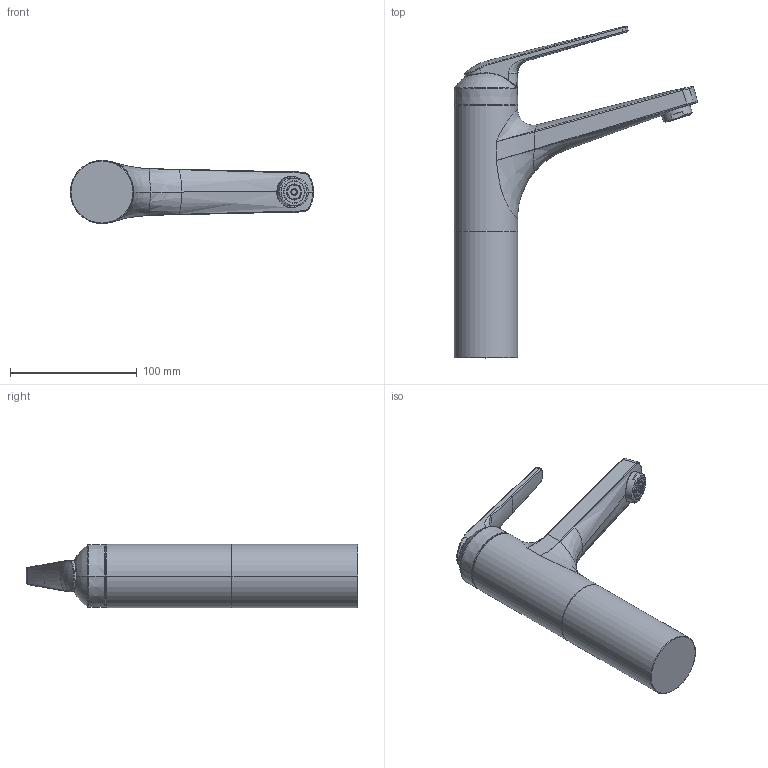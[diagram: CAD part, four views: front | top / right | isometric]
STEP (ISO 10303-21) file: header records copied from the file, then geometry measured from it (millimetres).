
FILE_DESCRIPTION((''),'2;1');
FILE_NAME('12_061_372_XXX','2012-06-26T',('azb9'),(''),'PRO/ENGINEER BY PARAMETRIC TECHNOLOGY CORPORATION, 2011080','PRO/ENGINEER BY PARAMETRIC TECHNOLOGY CORPORATION, 2011080','');
FILE_SCHEMA(('AUTOMOTIVE_DESIGN_CC2 { 1 2 10303 214 -1 1 5 2 }'));
Length unit declared in the file: millimetre
Products named in the file (1): 12_061_372_XXX
Bounding box: 192.22 x 262.18 x 50 mm (x, y, z)
Volume: 564674.4 mm3; surface area: 58855.1 mm2
Topology: 1 solids, 2 shells, 188 faces, 420 edges, 244 vertices
Faces by surface type: bspline 93, cylinder 34, torus 24, plane 23, cone 8, sphere 6
Entity records: 13307 total; most frequent: CARTESIAN_POINT 7614, ORIENTED_EDGE 836, DIRECTION 622, EDGE_CURVE 418, FILL_AREA_STYLE_COLOUR 336, FILL_AREA_STYLE 336, SURFACE_STYLE_FILL_AREA 336, SURFACE_SIDE_STYLE 336
